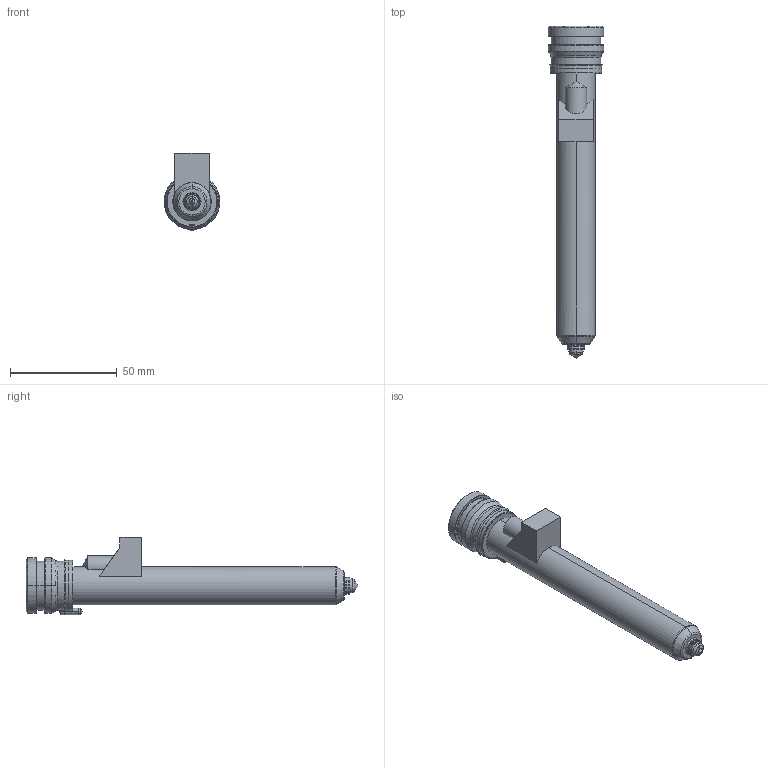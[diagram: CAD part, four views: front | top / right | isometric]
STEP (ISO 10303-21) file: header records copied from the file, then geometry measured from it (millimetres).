
FILE_DESCRIPTION((''),'2;1');
FILE_NAME('TH18137_5-M-1B15-PK-JG','2023-12-14T',('umhib'),('Thermoplay S.p.A.'),'PRO/ENGINEER BY PARAMETRIC TECHNOLOGY CORPORATION, 2017170','PRO/ENGINEER BY PARAMETRIC TECHNOLOGY CORPORATION, 2017170','');
FILE_SCHEMA(('CONFIG_CONTROL_DESIGN'));
Length unit declared in the file: millimetre
Products named in the file (1): TH18137_5-M-1B15-PK-JG
Bounding box: 26 x 155.5 x 36.1 mm (x, y, z)
Volume: 31500.9 mm3; surface area: 23907.9 mm2
Topology: 1 solids, 2 shells, 393 faces, 1003 edges, 615 vertices
Faces by surface type: cylinder 149, plane 87, cone 64, torus 58, bspline 22, sphere 11, extrusion 2
Entity records: 16873 total; most frequent: CARTESIAN_POINT 5190, DIRECTION 2010, ORIENTED_EDGE 1980, EDGE_CURVE 992, AXIS2_PLACEMENT_3D 810, VERTEX_POINT 615, CIRCLE 440, EDGE_LOOP 416
